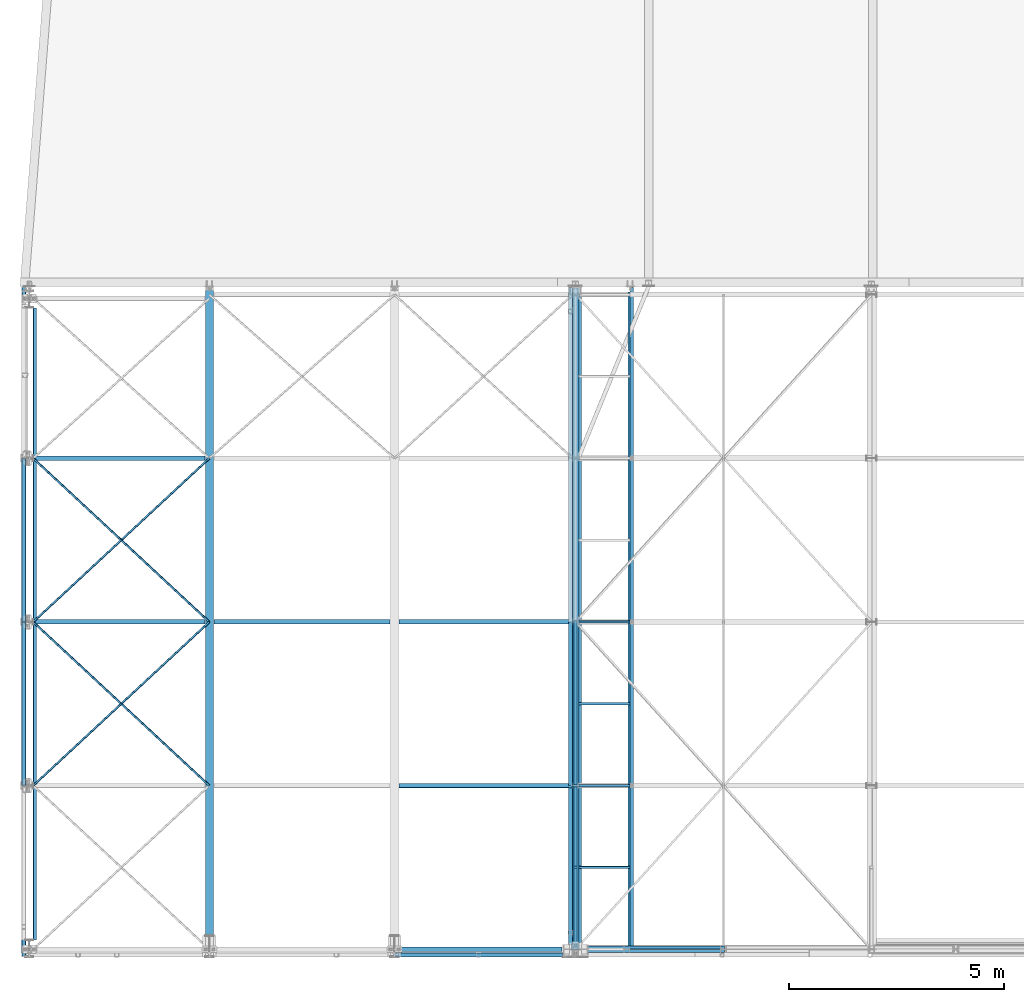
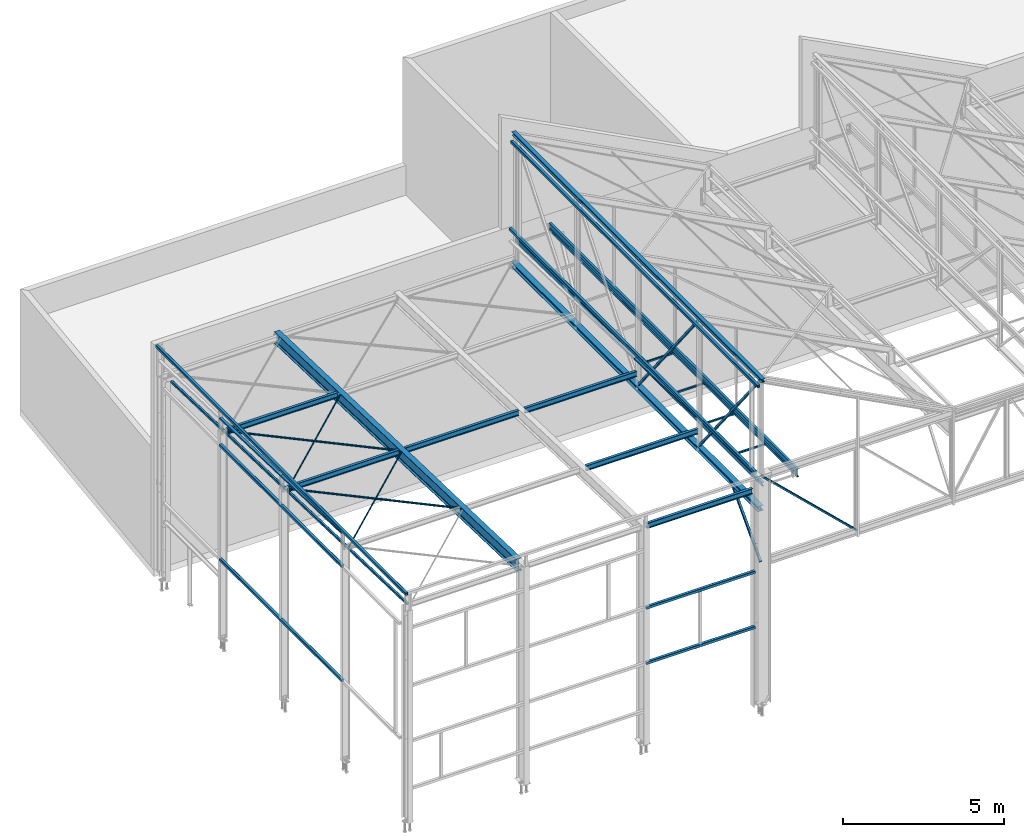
# One storey, part 25 of 123: 34 beams, 5 members, 39 elements without a shape of their own.
"""IFC2X3 building model written with IfcOpenShell, lengths in millimetres."""

import ifcopenshell
import ifcopenshell.guid

model = None  # the IFC model being written
_history = None  # IfcOwnerHistory: only IFC2X3 demands one
_inside = {}  # id of a spatial element -> (the spatial element, [elements in it])
_under = {}  # id of a project, library or spatial element -> (it, [spatial elements below it])
_declared = {}  # id of a project -> (the project, [libraries it declares])
_typed = {}  # id of a type object -> (the type object, [elements of that type])
_made_of = {}  # id of a material, layer set ... -> (it, [elements and type objects made of it])


def new_model(schema):
    """Start an empty IFC model of exactly this schema.

    Asked for "IFC4X3", IfcOpenShell would pick the latest addendum, in which some entities
    have other attributes; the version numbers below select the first issue.
    IFC2X3 requires an IfcOwnerHistory on every rooted entity: one is made here for all.
    """
    global model, _history
    if schema == "IFC4X3":
        model = ifcopenshell.file(schema_version=(4, 3, 0, 0))
    else:
        model = ifcopenshell.file(schema=schema)
    _inside.clear()
    _under.clear()
    _declared.clear()
    _typed.clear()
    _made_of.clear()
    _history = None
    if model.schema == "IFC2X3":
        org = make("IfcOrganization", Name="unknown")
        user = make(
            "IfcPersonAndOrganization",
            ThePerson=make("IfcPerson", FamilyName="unknown"),
            TheOrganization=org,
        )
        app = make(
            "IfcApplication",
            ApplicationDeveloper=org,
            Version="unknown",
            ApplicationFullName="unknown",
            ApplicationIdentifier="unknown",
        )
        _history = make(
            "IfcOwnerHistory",
            OwningUser=user,
            OwningApplication=app,
            ChangeAction="ADDED",
            CreationDate=0,
        )
    return model


def make(cls, **values):
    """One entity of the class cls with the attributes given. An attribute that is None is left unset."""
    return model.create_entity(
        cls, **{name: value for name, value in values.items() if value is not None}
    )


def rooted(cls, **values):
    """An entity with a GlobalId (a new one), such as an element, a storey or a relation."""
    return make(cls, GlobalId=ifcopenshell.guid.new(), OwnerHistory=_history, **values)


def si_unit(unit_type, name, prefix=None):
    """IfcSIUnit, for example si_unit("LENGTHUNIT", "METRE", prefix="MILLI")."""
    return make("IfcSIUnit", UnitType=unit_type, Prefix=prefix, Name=name)


def assignment(units):
    """IfcUnitAssignment: the units of a project."""
    return None if units is None else make("IfcUnitAssignment", Units=units)


def point(xyz):
    """IfcCartesianPoint."""
    return None if xyz is None else make("IfcCartesianPoint", Coordinates=xyz)


def direction(xyz):
    """IfcDirection."""
    return None if xyz is None else make("IfcDirection", DirectionRatios=xyz)


def frame(location, z_axis=None, x_axis=None):
    """IfcAxis2Placement3D, a coordinate frame: its origin and axes. An axis left out is left unset."""
    return make(
        "IfcAxis2Placement3D",
        Location=point(location),
        Axis=direction(z_axis),
        RefDirection=direction(x_axis),
    )


def frame_2d(location, x_axis=None):
    """IfcAxis2Placement2D, a coordinate frame in the plane: its origin and x axis."""
    return make(
        "IfcAxis2Placement2D", Location=point(location), RefDirection=direction(x_axis)
    )


def origin_with_axes():
    """The frame at (0, 0, 0) with the z axis (0, 0, 1) and the x axis (1, 0, 0) written out."""
    return frame((0.0, 0.0, 0.0), z_axis=(0.0, 0.0, 1.0), x_axis=(1.0, 0.0, 0.0))


def origin_2d_with_axis():
    """The frame at (0, 0) in the plane with the x axis (1, 0) written out."""
    return frame_2d((0.0, 0.0), x_axis=(1.0, 0.0))


def place(relative_to, where):
    """IfcLocalPlacement: puts the frame where relative to a parent placement (None: the world)."""
    return make(
        "IfcLocalPlacement", PlacementRelTo=relative_to, RelativePlacement=where
    )


def context(
    kind, dimensions, precision=None, world=None, true_north=None, identifier=None
):
    """IfcGeometricRepresentationContext, for example the 3D "Model" context."""
    return make(
        "IfcGeometricRepresentationContext",
        ContextIdentifier=identifier,
        ContextType=kind,
        CoordinateSpaceDimension=dimensions,
        Precision=precision,
        WorldCoordinateSystem=world,
        TrueNorth=true_north,
    )


def subcontext(parent, identifier, kind, view, scale=None):
    """IfcGeometricRepresentationSubContext, for example "Body" below "Model"."""
    return make(
        "IfcGeometricRepresentationSubContext",
        ContextIdentifier=identifier,
        ContextType=kind,
        ParentContext=parent,
        TargetScale=scale,
        TargetView=view,
    )


def project(units=None, contexts=None):
    """IfcProject with its units and contexts."""
    return rooted(
        "IfcProject",
        Name="project",
        RepresentationContexts=contexts,
        UnitsInContext=assignment(units),
    )


def spatial(cls, under=None, at=None, **own):
    """A site, building, storey or space (cls), placed at a placement, below another one or the project."""
    s = rooted(cls, ObjectPlacement=at, **own)
    if under is not None:
        _under.setdefault(under.id(), (under, []))[1].append(s)
    return s


def profile(cls, at=None, kind="AREA", **sizes):
    """A parametric profile (cls). Its sizes go by their IFC names, for example OverallWidth=200.0."""
    return make(cls, ProfileType=kind, Position=at, **sizes)


def hollow_rectangle(**sizes):
    """IfcRectangleHollowProfileDef."""
    return profile("IfcRectangleHollowProfileDef", **sizes)


def i_section(**sizes):
    """IfcIShapeProfileDef."""
    return profile("IfcIShapeProfileDef", **sizes)


def l_section(**sizes):
    """IfcLShapeProfileDef."""
    return profile("IfcLShapeProfileDef", **sizes)


def u_section(**sizes):
    """IfcUShapeProfileDef."""
    return profile("IfcUShapeProfileDef", **sizes)


def extrude(swept, where, along, depth):
    """IfcExtrudedAreaSolid: the profile swept, set in the frame where, extruded along a direction by depth."""
    return make(
        "IfcExtrudedAreaSolid",
        SweptArea=swept,
        Position=where,
        ExtrudedDirection=direction(along),
        Depth=depth,
    )


def clip(a, b, op="DIFFERENCE"):
    """IfcBooleanClippingResult: the solid a cut by the half space b."""
    return make(
        "IfcBooleanClippingResult", Operator=op, FirstOperand=a, SecondOperand=b
    )


def halfspace(plane, agree):
    """IfcHalfSpaceSolid: all space on one side of the plane z = 0 of the frame plane."""
    return make(
        "IfcHalfSpaceSolid",
        BaseSurface=make("IfcPlane", Position=plane),
        AgreementFlag=agree,
    )


def shape(context_of_items, identifier, shape_type, items):
    """IfcShapeRepresentation: the items that make up one representation, for example the "Body"."""
    return make(
        "IfcShapeRepresentation",
        ContextOfItems=context_of_items,
        RepresentationIdentifier=identifier,
        RepresentationType=shape_type,
        Items=items,
    )


def material(Name=None, Category=None):
    """IfcMaterial."""
    return make("IfcMaterial", Name=Name, Category=Category)


def made_of(thing, what):
    """Note that an element or type object is made of a material, layer set ...; save() writes the relation."""
    if what is not None:
        _made_of.setdefault(what.id(), (what, []))[1].append(thing)
    return thing


def type_object(cls, material=None, **own):
    """A type object (cls), such as IfcWallType, which elements share."""
    return made_of(rooted(cls, **own), material)


def element(
    cls,
    number,
    at=None,
    inside=None,
    cuts=None,
    type_object=None,
    material=None,
    context=None,
    identifier="Body",
    shape_type=None,
    held_by="IfcProductDefinitionShape",
    body=None,
    shapes=None,
    **own,
):
    """One element of the class cls, such as IfcWall. Its Tag is "e" and its number.

    at: its placement. inside: the storey or other place that contains it. cuts: it is an
    opening in that element (IfcRelVoidsElement). A single representation is given by context,
    identifier, shape_type and body (its items); several are given by shapes. held_by: the class
    of the entity that holds the representations. save() writes the other relations.
    """
    e = rooted(cls, Tag="e%d" % number, ObjectPlacement=at, **own)
    if body is not None:
        shapes = [shape(context, identifier, shape_type, body)]
    if shapes is not None:
        e.Representation = make(held_by, Representations=shapes)
    if inside is not None:
        _inside.setdefault(inside.id(), (inside, []))[1].append(e)
    if cuts is not None:
        rooted(
            "IfcRelVoidsElement", RelatingBuildingElement=cuts, RelatedOpeningElement=e
        )
    if type_object is not None:
        _typed.setdefault(type_object.id(), (type_object, []))[1].append(e)
    return made_of(e, material)


def aggregate(whole, parts):
    """IfcRelAggregates: a whole, such as a stair, and the parts it consists of."""
    return rooted("IfcRelAggregates", RelatingObject=whole, RelatedObjects=parts)


def save(model, path):
    """Write the relations noted so far, then the file.

    IfcRelAggregates (storeys below a building ...), IfcRelContainedInSpatialStructure (elements
    in a storey), IfcRelDefinesByType, IfcRelAssociatesMaterial and IfcRelDeclares: one each for
    every whole, place, type object, material and project.
    """
    for whole, parts in _under.values():
        aggregate(whole, parts)
    for where, things in _inside.values():
        rooted(
            "IfcRelContainedInSpatialStructure",
            RelatedElements=things,
            RelatingStructure=where,
        )
    for kind, things in _typed.values():
        rooted("IfcRelDefinesByType", RelatedObjects=things, RelatingType=kind)
    for what, things in _made_of.values():
        rooted("IfcRelAssociatesMaterial", RelatedObjects=things, RelatingMaterial=what)
    for by, libraries in _declared.values():
        rooted("IfcRelDeclares", RelatingContext=by, RelatedDefinitions=libraries)
    model.write(path)


model = new_model("IFC2X3")

# Units and contexts
model_context = context("Model", 3, precision=1e-05, world=origin_with_axes())
body_context = subcontext(model_context, "Body", "Model", "MODEL_VIEW")
ifc_project = project(units=[si_unit("LENGTHUNIT", "METRE", prefix="MILLI"), si_unit("AREAUNIT", "SQUARE_METRE"), si_unit("VOLUMEUNIT", "CUBIC_METRE"), si_unit("MASSUNIT", "GRAM", prefix="KILO"), si_unit("TIMEUNIT", "SECOND"), si_unit("PLANEANGLEUNIT", "RADIAN"), si_unit("SOLIDANGLEUNIT", "STERADIAN"), si_unit("THERMODYNAMICTEMPERATUREUNIT", "DEGREE_CELSIUS"), si_unit("LUMINOUSINTENSITYUNIT", "LUMEN")], contexts=[model_context])

# Site, building, storey
site_placement = place(None, origin_with_axes())
site = spatial("IfcSite", under=ifc_project, at=site_placement, Name="Undefined", CompositionType="ELEMENT")
building_placement = place(site_placement, origin_with_axes())
building = spatial("IfcBuilding", under=site, at=building_placement, Name="Undefined", CompositionType="ELEMENT")
storey_placement = place(building_placement, origin_with_axes())
storey = spatial("IfcBuildingStorey", under=building, at=storey_placement, Name="Undefined", CompositionType="ELEMENT", Elevation=0.0)

# Assembly, beam
assembly_1_placement = place(storey_placement, origin_with_axes())
assembly_1 = element("IfcElementAssembly", 1, at=assembly_1_placement, inside=storey, Name="Steel Assembly", AssemblyPlace="NOTDEFINED", PredefinedType="RIGID_FRAME")
ifc_material_1 = material(Name="STEEL/S235-E24")
beam_type_1 = type_object("IfcBeamType", Name="UPF-100*50*4", PredefinedType="NOTDEFINED")
beam_1_placement = place(assembly_1_placement, frame((12563.5000000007, 3800.0, 8410.85601504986), z_axis=(1.0, 0.0, 0.0), x_axis=(0.0, 0.999506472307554, -0.0314135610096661)))
beam_1 = element("IfcBeam", 2, at=beam_1_placement, type_object=beam_type_1, material=ifc_material_1, Name="LISSE CONTREBARDAGE", ObjectType="UPF-100*50*4", context=body_context, shape_type="SweptSolid", body=[
    extrude(u_section(Depth=100.0, FlangeWidth=50.0, WebThickness=4.0, FlangeThickness=4.0, at=origin_2d_with_axis()), frame((3801.87643069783, 2.63808171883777e-14, 0.0), z_axis=(-1.0, 0.0, 0.0), x_axis=(0.0, -1.0, 0.0)), (0.0, 0.0, 1.0), 3801.9),
])
aggregate(assembly_1, [beam_1])

assembly_2_placement = place(storey_placement, origin_with_axes())
assembly_2 = element("IfcElementAssembly", 3, at=assembly_2_placement, inside=storey, Name="Steel Assembly", AssemblyPlace="NOTDEFINED", PredefinedType="RIGID_FRAME")
beam_2_placement = place(assembly_2_placement, frame((-129.99999999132, 7600.0, 8291.42237510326), z_axis=(1.0, 0.0, 0.0), x_axis=(0.0, 0.999506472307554, -0.0314135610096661)))
beam_2 = element("IfcBeam", 4, at=beam_2_placement, type_object=beam_type_1, material=ifc_material_1, Name="LISSE CONTREBARDAGE", ObjectType="UPF-100*50*4", context=body_context, shape_type="SweptSolid", body=[
    extrude(u_section(Depth=100.0, FlangeWidth=50.0, WebThickness=4.0, FlangeThickness=4.0, at=origin_2d_with_axis()), frame((3801.87643069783, 2.63808171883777e-14, 0.0), z_axis=(-1.0, 0.0, 0.0), x_axis=(0.0, -1.0, 0.0)), (0.0, 0.0, 1.0), 3801.9),
])
aggregate(assembly_2, [beam_2])

assembly_3_placement = place(storey_placement, origin_with_axes())
assembly_3 = element("IfcElementAssembly", 5, at=assembly_3_placement, inside=storey, Name="Steel Assembly", AssemblyPlace="NOTDEFINED", PredefinedType="RIGID_FRAME")
beam_3_placement = place(assembly_3_placement, frame((-129.999999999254, 3799.99999997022, 8410.85601504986), z_axis=(1.0, 0.0, 0.0), x_axis=(0.0, 0.999506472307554, -0.0314135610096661)))
beam_3 = element("IfcBeam", 6, at=beam_3_placement, type_object=beam_type_1, material=ifc_material_1, Name="LISSE CONTREBARDAGE", ObjectType="UPF-100*50*4", context=body_context, shape_type="SweptSolid", body=[
    extrude(u_section(Depth=100.0, FlangeWidth=50.0, WebThickness=4.0, FlangeThickness=4.0, at=origin_2d_with_axis()), frame((3801.87643069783, 2.63808171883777e-14, 0.0), z_axis=(-1.0, 0.0, 0.0), x_axis=(0.0, -1.0, 0.0)), (0.0, 0.0, 1.0), 3801.9),
])
aggregate(assembly_3, [beam_3])

assembly_4_placement = place(storey_placement, origin_with_axes())
assembly_4 = element("IfcElementAssembly", 7, at=assembly_4_placement, inside=storey, Name="Steel Assembly", AssemblyPlace="NOTDEFINED", PredefinedType="RIGID_FRAME")
ifc_material_2 = material(Name="STEEL/S275-E28")
beam_type_2 = type_object("IfcBeamType", Name="IPE450", PredefinedType="NOTDEFINED")
beam_4_placement = place(assembly_4_placement, frame((4180.00000000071, -7.06742078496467, 7825.11102391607), z_axis=(0.0, -0.0314107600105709, -0.999506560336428), x_axis=(0.0, 0.999506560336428, -0.0314107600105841)))
beam_4 = element("IfcBeam", 8, at=beam_4_placement, type_object=beam_type_2, material=ifc_material_2, Name="TRAVERSE", ObjectType="IPE450", context=body_context, shape_type="Clipping", body=[
    clip(clip(extrude(i_section(OverallWidth=190.0, OverallDepth=450.0, WebThickness=9.399999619, FlangeThickness=14.60000038, FilletRadius=21.0, at=origin_2d_with_axis()), frame((15397.5977849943, 0.0, 0.0), z_axis=(-1.0, 0.0, 0.0), x_axis=(0.0, -1.0, 0.0)), (0.0, 0.0, 1.0), 15397.6), halfspace(frame((15367.5829744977, -95.0, -224.999999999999), z_axis=(0.999506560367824, 0.0, -0.0314107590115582), x_axis=(0.0314107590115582, 0.0, 0.999506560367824)), False)), halfspace(frame((320.157978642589, 95.0, -224.999999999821), z_axis=(-0.999506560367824, 0.0, 0.0314107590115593), x_axis=(0.0314107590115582, 0.0, 0.999506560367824)), False)),
])
aggregate(assembly_4, [beam_4])

# Assembly, member
assembly_5_placement = place(storey_placement, origin_with_axes())
assembly_5 = element("IfcElementAssembly", 9, at=assembly_5_placement, inside=storey, Name="Steel Assembly", AssemblyPlace="NOTDEFINED", PredefinedType="RIGID_FRAME")
member_type_1 = type_object("IfcMemberType", Name="L70*7", PredefinedType="NOTDEFINED")
member_1_placement = place(assembly_5_placement, frame((12680.0000000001, 39.9999999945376, 8409.99999999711), z_axis=(-0.690659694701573, 0.0, -0.723179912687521), x_axis=(0.723179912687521, 0.0, -0.690659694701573)))
member_1 = element("IfcMember", 10, at=member_1_placement, type_object=member_type_1, material=ifc_material_1, Name="DIAGONALE", ObjectType="L70*7", context=body_context, shape_type="SweptSolid", body=[
    extrude(l_section(Depth=70.0, Width=70.0, Thickness=7.0, FilletRadius=9.0, EdgeRadius=4.5, at=origin_2d_with_axis()), frame((4749.482977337, 0.0, 0.0), z_axis=(-1.0, 0.0, 0.0), x_axis=(0.0, -1.0, 0.0)), (0.0, 0.0, 1.0), 4749.5),
])
aggregate(assembly_5, [member_1])

assembly_6_placement = place(storey_placement, origin_with_axes())
assembly_6 = element("IfcElementAssembly", 11, at=assembly_6_placement, inside=storey, Name="Steel Assembly", AssemblyPlace="NOTDEFINED", PredefinedType="RIGID_FRAME")
member_2_placement = place(assembly_6_placement, frame((16114.7306857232, -40.0000000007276, 5129.72353777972), z_axis=(-0.690659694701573, 0.0, -0.723179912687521), x_axis=(-0.723179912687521, 0.0, 0.690659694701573)))
member_2 = element("IfcMember", 12, at=member_2_placement, type_object=member_type_1, material=ifc_material_1, Name="DIAGONALE", ObjectType="L70*7", context=body_context, shape_type="SweptSolid", body=[
    extrude(l_section(Depth=70.0, Width=70.0, Thickness=7.0, FilletRadius=9.0, EdgeRadius=4.5, at=origin_2d_with_axis()), frame((4749.482977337, 0.0, 0.0), z_axis=(-1.0, 0.0, 0.0), x_axis=(0.0, -1.0, 0.0)), (0.0, 0.0, 1.0), 4749.5),
])
aggregate(assembly_6, [member_2])

# Assembly, beam
assembly_7_placement = place(storey_placement, origin_with_axes())
assembly_7 = element("IfcElementAssembly", 13, at=assembly_7_placement, inside=storey, Name="Steel Assembly", AssemblyPlace="NOTDEFINED", PredefinedType="RIGID_FRAME")
beam_type_3 = type_object("IfcBeamType", Name="TUBE-C-60*60*3", PredefinedType="NOTDEFINED")
beam_5_placement = place(assembly_7_placement, frame((12751.5083416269, 5700.0, 8015.0), z_axis=(0.0, -1.0, 0.0), x_axis=(1.0, 0.0, 0.0)))
beam_5 = element("IfcBeam", 14, at=beam_5_placement, type_object=beam_type_3, material=ifc_material_1, Name="SOLIVE", ObjectType="TUBE-C-60*60*3", context=body_context, shape_type="SweptSolid", body=[
    extrude(hollow_rectangle(XDim=60.0, YDim=60.0, WallThickness=3.0, InnerFilletRadius=3.0, OuterFilletRadius=6.0, at=origin_2d_with_axis()), frame((1194.99154388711, 0.0, 0.0), z_axis=(-1.0, 0.0, 0.0), x_axis=(0.0, -1.0, 0.0)), (0.0, 0.0, 1.0), 1195.0),
])
aggregate(assembly_7, [beam_5])

assembly_8_placement = place(storey_placement, origin_with_axes())
assembly_8 = element("IfcElementAssembly", 15, at=assembly_8_placement, inside=storey, Name="Steel Assembly", AssemblyPlace="NOTDEFINED", PredefinedType="RIGID_FRAME")
beam_6_placement = place(assembly_8_placement, frame((12751.5083416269, 1900.0, 8015.0), z_axis=(0.0, -1.0, 0.0), x_axis=(1.0, 0.0, 0.0)))
beam_6 = element("IfcBeam", 16, at=beam_6_placement, type_object=beam_type_3, material=ifc_material_1, Name="SOLIVE", ObjectType="TUBE-C-60*60*3", context=body_context, shape_type="SweptSolid", body=[
    extrude(hollow_rectangle(XDim=60.0, YDim=60.0, WallThickness=3.0, InnerFilletRadius=3.0, OuterFilletRadius=6.0, at=origin_2d_with_axis()), frame((1194.99154388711, 0.0, 0.0), z_axis=(-1.0, 0.0, 0.0), x_axis=(0.0, -1.0, 0.0)), (0.0, 0.0, 1.0), 1195.0),
])
aggregate(assembly_8, [beam_6])

assembly_9_placement = place(storey_placement, origin_with_axes())
assembly_9 = element("IfcElementAssembly", 17, at=assembly_9_placement, inside=storey, Name="Steel Assembly", AssemblyPlace="NOTDEFINED", PredefinedType="RIGID_FRAME")
beam_7_placement = place(assembly_9_placement, frame((12751.5083416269, 7600.0, 8015.0), z_axis=(0.0, -1.0, 0.0), x_axis=(1.0, 0.0, 0.0)))
beam_7 = element("IfcBeam", 18, at=beam_7_placement, type_object=beam_type_3, material=ifc_material_1, Name="SOLIVE", ObjectType="TUBE-C-60*60*3", context=body_context, shape_type="SweptSolid", body=[
    extrude(hollow_rectangle(XDim=60.0, YDim=60.0, WallThickness=3.0, InnerFilletRadius=3.0, OuterFilletRadius=6.0, at=origin_2d_with_axis()), frame((1194.99154388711, 0.0, 0.0), z_axis=(-1.0, 0.0, 0.0), x_axis=(0.0, -1.0, 0.0)), (0.0, 0.0, 1.0), 1195.0),
])
aggregate(assembly_9, [beam_7])

assembly_10_placement = place(storey_placement, origin_with_axes())
assembly_10 = element("IfcElementAssembly", 19, at=assembly_10_placement, inside=storey, Name="Steel Assembly", AssemblyPlace="NOTDEFINED", PredefinedType="RIGID_FRAME")
beam_8_placement = place(assembly_10_placement, frame((12751.5083416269, 3800.0, 8015.0), z_axis=(0.0, -1.0, 0.0), x_axis=(1.0, 0.0, 0.0)))
beam_8 = element("IfcBeam", 20, at=beam_8_placement, type_object=beam_type_3, material=ifc_material_1, Name="SOLIVE", ObjectType="TUBE-C-60*60*3", context=body_context, shape_type="SweptSolid", body=[
    extrude(hollow_rectangle(XDim=60.0, YDim=60.0, WallThickness=3.0, InnerFilletRadius=3.0, OuterFilletRadius=6.0, at=origin_2d_with_axis()), frame((1194.99154388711, 0.0, 0.0), z_axis=(-1.0, 0.0, 0.0), x_axis=(0.0, -1.0, 0.0)), (0.0, 0.0, 1.0), 1195.0),
])
aggregate(assembly_10, [beam_8])

assembly_11_placement = place(storey_placement, origin_with_axes())
assembly_11 = element("IfcElementAssembly", 21, at=assembly_11_placement, inside=storey, Name="Steel Assembly", AssemblyPlace="NOTDEFINED", PredefinedType="RIGID_FRAME")
beam_type_4 = type_object("IfcBeamType", Name="UPF-300*82.5*6", PredefinedType="NOTDEFINED")
beam_9_placement = place(assembly_11_placement, frame((13987.7498855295, 15360.0000093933, 8090.0), z_axis=(0.0, 0.0, -1.0), x_axis=(0.0, -1.0, 0.0)))
beam_9 = element("IfcBeam", 22, at=beam_9_placement, type_object=beam_type_4, material=ifc_material_1, Name="LONGERON", ObjectType="UPF-300*82.5*6", context=body_context, shape_type="SweptSolid", body=[
    extrude(u_section(Depth=300.0, FlangeWidth=82.5, WebThickness=6.0, FlangeThickness=6.0, at=origin_2d_with_axis()), frame((15430.0000255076, 0.0, 0.0), z_axis=(-1.0, 0.0, 0.0), x_axis=(0.0, -1.0, 0.0)), (0.0, 0.0, 1.0), 15430.0),
])
aggregate(assembly_11, [beam_9])

assembly_12_placement = place(storey_placement, origin_with_axes())
assembly_12 = element("IfcElementAssembly", 23, at=assembly_12_placement, inside=storey, Name="Steel Assembly", AssemblyPlace="NOTDEFINED", PredefinedType="RIGID_FRAME")
beam_type_5 = type_object("IfcBeamType", Name="TUBE-C-100*100*4", PredefinedType="NOTDEFINED")
beam_10_placement = place(assembly_12_placement, frame((12563.5000013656, -70.0000009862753, 11869.999999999), z_axis=(0.0, 0.0, -1.0), x_axis=(0.0, 1.0, 0.0)))
beam_10 = element("IfcBeam", 24, at=beam_10_placement, type_object=beam_type_5, material=ifc_material_1, Name="LISSE ACROTERE", ObjectType="TUBE-C-100*100*4", context=body_context, shape_type="SweptSolid", body=[
    extrude(hollow_rectangle(XDim=100.0, YDim=100.0, WallThickness=4.0, InnerFilletRadius=4.0, OuterFilletRadius=8.0, at=origin_2d_with_axis()), frame((15340.0000000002, 0.0, 0.0), z_axis=(-1.0, 0.0, 0.0), x_axis=(0.0, -1.0, 0.0)), (0.0, 0.0, 1.0), 15340.0),
])
aggregate(assembly_12, [beam_10])

assembly_13_placement = place(storey_placement, origin_with_axes())
assembly_13 = element("IfcElementAssembly", 25, at=assembly_13_placement, inside=storey, Name="Steel Assembly", AssemblyPlace="NOTDEFINED", PredefinedType="RIGID_FRAME")
beam_11_placement = place(assembly_13_placement, frame((8480.00000000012, -130.000008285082, 4949.99999999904), z_axis=(0.0, 0.0, 1.0), x_axis=(1.0, 0.0, 0.0)))
beam_11 = element("IfcBeam", 26, at=beam_11_placement, type_object=beam_type_5, material=ifc_material_1, Name="LISSE CHASSIS", ObjectType="TUBE-C-100*100*4", context=body_context, shape_type="SweptSolid", body=[
    extrude(hollow_rectangle(XDim=100.0, YDim=100.0, WallThickness=4.0, InnerFilletRadius=4.0, OuterFilletRadius=8.0, at=origin_2d_with_axis()), frame((3900.00000005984, 0.0, 0.0), z_axis=(-1.0, 0.0, 0.0), x_axis=(0.0, -1.0, 0.0)), (0.0, 0.0, 1.0), 3900.0),
])
aggregate(assembly_13, [beam_11])

assembly_14_placement = place(storey_placement, origin_with_axes())
assembly_14 = element("IfcElementAssembly", 27, at=assembly_14_placement, inside=storey, Name="Steel Assembly", AssemblyPlace="NOTDEFINED", PredefinedType="RIGID_FRAME")
beam_12_placement = place(assembly_14_placement, frame((8480.0, -130.000008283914, 2850.0), z_axis=(0.0, 0.0, -1.0), x_axis=(1.0, 0.0, 0.0)))
beam_12 = element("IfcBeam", 28, at=beam_12_placement, type_object=beam_type_5, material=ifc_material_1, Name="LISSE CHASSIS", ObjectType="TUBE-C-100*100*4", context=body_context, shape_type="SweptSolid", body=[
    extrude(hollow_rectangle(XDim=100.0, YDim=100.0, WallThickness=4.0, InnerFilletRadius=4.0, OuterFilletRadius=8.0, at=origin_2d_with_axis()), frame((3900.00000005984, 0.0, 0.0), z_axis=(-1.0, 0.0, 0.0), x_axis=(0.0, -1.0, 0.0)), (0.0, 0.0, 1.0), 3900.0),
])
aggregate(assembly_14, [beam_12])

assembly_15_placement = place(storey_placement, origin_with_axes())
assembly_15 = element("IfcElementAssembly", 29, at=assembly_15_placement, inside=storey, Name="Steel Assembly", AssemblyPlace="NOTDEFINED", PredefinedType="RIGID_FRAME")
beam_13_placement = place(assembly_15_placement, frame((-129.999997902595, 11399.9999991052, 7150.00000059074), z_axis=(0.0, 0.0, -1.0), x_axis=(0.0, -1.0, 0.0)))
beam_13 = element("IfcBeam", 30, at=beam_13_placement, type_object=beam_type_5, material=ifc_material_1, Name="LISSE CHASSIS", ObjectType="TUBE-C-100*100*4", context=body_context, shape_type="SweptSolid", body=[
    extrude(hollow_rectangle(XDim=100.0, YDim=100.0, WallThickness=4.0, InnerFilletRadius=4.0, OuterFilletRadius=8.0, at=origin_2d_with_axis()), frame((3799.99999999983, 0.0, 0.0), z_axis=(-1.0, 0.0, 0.0), x_axis=(0.0, -1.0, 0.0)), (0.0, 0.0, 1.0), 3800.0),
])
aggregate(assembly_15, [beam_13])

assembly_16_placement = place(storey_placement, origin_with_axes())
assembly_16 = element("IfcElementAssembly", 31, at=assembly_16_placement, inside=storey, Name="Steel Assembly", AssemblyPlace="NOTDEFINED", PredefinedType="RIGID_FRAME")
beam_14_placement = place(assembly_16_placement, frame((-129.999999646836, 7599.99999910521, 7150.00000925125), z_axis=(0.0, 0.0, -1.0), x_axis=(0.0, -1.0, 0.0)))
beam_14 = element("IfcBeam", 32, at=beam_14_placement, type_object=beam_type_5, material=ifc_material_1, Name="LISSE CHASSIS", ObjectType="TUBE-C-100*100*4", context=body_context, shape_type="SweptSolid", body=[
    extrude(hollow_rectangle(XDim=100.0, YDim=100.0, WallThickness=4.0, InnerFilletRadius=4.0, OuterFilletRadius=8.0, at=origin_2d_with_axis()), frame((3799.99999999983, 0.0, 0.0), z_axis=(-1.0, 0.0, 0.0), x_axis=(0.0, -1.0, 0.0)), (0.0, 0.0, 1.0), 3800.0),
])
aggregate(assembly_16, [beam_14])

assembly_17_placement = place(storey_placement, origin_with_axes())
assembly_17 = element("IfcElementAssembly", 33, at=assembly_17_placement, inside=storey, Name="Steel Assembly", AssemblyPlace="NOTDEFINED", PredefinedType="RIGID_FRAME")
beam_15_placement = place(assembly_17_placement, frame((-129.999999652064, 7599.99999900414, 2810.00000011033), z_axis=(0.0, 0.0, 1.0), x_axis=(0.0, -1.0, 0.0)))
beam_15 = element("IfcBeam", 34, at=beam_15_placement, type_object=beam_type_5, material=ifc_material_1, Name="LISSE CHASSIS", ObjectType="TUBE-C-100*100*4", context=body_context, shape_type="SweptSolid", body=[
    extrude(hollow_rectangle(XDim=100.0, YDim=100.0, WallThickness=4.0, InnerFilletRadius=4.0, OuterFilletRadius=8.0, at=origin_2d_with_axis()), frame((3799.99999999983, 0.0, 0.0), z_axis=(-1.0, 0.0, 0.0), x_axis=(0.0, -1.0, 0.0)), (0.0, 0.0, 1.0), 3800.0),
])
aggregate(assembly_17, [beam_15])

assembly_18_placement = place(storey_placement, origin_with_axes())
assembly_18 = element("IfcElementAssembly", 35, at=assembly_18_placement, inside=storey, Name="Steel Assembly", AssemblyPlace="NOTDEFINED", PredefinedType="RIGID_FRAME")
beam_16_placement = place(assembly_18_placement, frame((-129.999997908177, 11399.9999990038, 2810.00000033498), z_axis=(0.0, 0.0, 1.0), x_axis=(0.0, -1.0, 0.0)))
beam_16 = element("IfcBeam", 36, at=beam_16_placement, type_object=beam_type_5, material=ifc_material_1, Name="LISSE CHASSIS", ObjectType="TUBE-C-100*100*4", context=body_context, shape_type="SweptSolid", body=[
    extrude(hollow_rectangle(XDim=100.0, YDim=100.0, WallThickness=4.0, InnerFilletRadius=4.0, OuterFilletRadius=8.0, at=origin_2d_with_axis()), frame((3799.99999999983, 0.0, 0.0), z_axis=(-1.0, 0.0, 0.0), x_axis=(0.0, -1.0, 0.0)), (0.0, 0.0, 1.0), 3800.0),
])
aggregate(assembly_18, [beam_16])

assembly_19_placement = place(storey_placement, origin_with_axes())
assembly_19 = element("IfcElementAssembly", 37, at=assembly_19_placement, inside=storey, Name="Steel Assembly", AssemblyPlace="NOTDEFINED", PredefinedType="RIGID_FRAME")
beam_17_placement = place(assembly_19_placement, frame((12563.5000000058, 114.999999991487, 8500.00000000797), z_axis=(0.0, 0.0, 1.0), x_axis=(0.0, 1.0, 0.0)))
beam_17 = element("IfcBeam", 38, at=beam_17_placement, type_object=beam_type_5, material=ifc_material_1, Name="LISSE ACROTERE", ObjectType="TUBE-C-100*100*4", context=body_context, shape_type="SweptSolid", body=[
    extrude(hollow_rectangle(XDim=100.0, YDim=100.0, WallThickness=4.0, InnerFilletRadius=4.0, OuterFilletRadius=8.0, at=origin_2d_with_axis()), frame((15244.9999999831, 0.0, 0.0), z_axis=(-1.0, 0.0, 0.0), x_axis=(0.0, -1.0, 0.0)), (0.0, 0.0, 1.0), 15245.0),
])
aggregate(assembly_19, [beam_17])

assembly_20_placement = place(storey_placement, origin_with_axes())
assembly_20 = element("IfcElementAssembly", 39, at=assembly_20_placement, inside=storey, Name="Steel Assembly", AssemblyPlace="NOTDEFINED", PredefinedType="RIGID_FRAME")
beam_18_placement = place(assembly_20_placement, frame((-129.999999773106, 15359.9999999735, 8500.00000002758), z_axis=(0.0, 0.0, 1.0), x_axis=(0.0, -1.0, 0.0)))
beam_18 = element("IfcBeam", 40, at=beam_18_placement, type_object=beam_type_5, material=ifc_material_1, Name="LISSE ACROTERE", ObjectType="TUBE-C-100*100*4", context=body_context, shape_type="SweptSolid", body=[
    extrude(hollow_rectangle(XDim=100.0, YDim=100.0, WallThickness=4.0, InnerFilletRadius=4.0, OuterFilletRadius=8.0, at=origin_2d_with_axis()), frame((15540.0, 0.0, 0.0), z_axis=(-1.0, 0.0, 0.0), x_axis=(0.0, -1.0, 0.0)), (0.0, 0.0, 1.0), 15540.0),
])
aggregate(assembly_20, [beam_18])

# Assembly, member
assembly_21_placement = place(storey_placement, origin_with_axes())
assembly_21 = element("IfcElementAssembly", 41, at=assembly_21_placement, inside=storey, Name="Steel Assembly", AssemblyPlace="NOTDEFINED", PredefinedType="RIGID_FRAME")
member_type_2 = type_object("IfcMemberType", Name="TUBE-C-80*80*4", PredefinedType="NOTDEFINED")
member_3_placement = place(assembly_21_placement, frame((12680.0, 1900.00000000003, 7155.00000000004), z_axis=(1.0, 0.0, 0.0), x_axis=(0.0, -0.684240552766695, -0.729256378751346)))
member_3 = element("IfcMember", 42, at=member_3_placement, type_object=member_type_2, material=ifc_material_1, Name="BUTON", ObjectType="TUBE-C-80*80*4", context=body_context, shape_type="SweptSolid", body=[
    extrude(hollow_rectangle(XDim=80.0, YDim=80.0, WallThickness=4.0, InnerFilletRadius=4.0, OuterFilletRadius=8.0, at=origin_2d_with_axis()), frame((2776.80121722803, 0.0, 0.0), z_axis=(-1.0, 0.0, 0.0), x_axis=(0.0, -1.0, 0.0)), (0.0, 0.0, 1.0), 2776.8),
])
aggregate(assembly_21, [member_3])

assembly_22_placement = place(storey_placement, origin_with_axes())
assembly_22 = element("IfcElementAssembly", 43, at=assembly_22_placement, inside=storey, Name="Steel Assembly", AssemblyPlace="NOTDEFINED", PredefinedType="RIGID_FRAME")
member_4_placement = place(assembly_22_placement, frame((12680.0000000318, 3800.00552228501, 12037.0), z_axis=(-1.0, 0.0, 0.0), x_axis=(0.0, 0.621737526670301, -0.783225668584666)))
member_4 = element("IfcMember", 44, at=member_4_placement, type_object=member_type_2, material=ifc_material_1, Name="DIAGONALE", ObjectType="TUBE-C-80*80*4", context=body_context, shape_type="SweptSolid", body=[
    extrude(hollow_rectangle(XDim=80.0, YDim=80.0, WallThickness=4.0, InnerFilletRadius=4.0, OuterFilletRadius=8.0, at=origin_2d_with_axis()), frame((6111.9038768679, 0.0, 0.0), z_axis=(-1.0, 0.0, 0.0), x_axis=(0.0, -1.0, 0.0)), (0.0, 0.0, 1.0), 6111.9),
])
aggregate(assembly_22, [member_4])

assembly_23_placement = place(storey_placement, origin_with_axes())
assembly_23 = element("IfcElementAssembly", 45, at=assembly_23_placement, inside=storey, Name="Steel Assembly", AssemblyPlace="NOTDEFINED", PredefinedType="RIGID_FRAME")
member_5_placement = place(assembly_23_placement, frame((12680.0000000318, 0.00552228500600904, 12037.0), z_axis=(-1.0, 0.0, 0.0), x_axis=(0.0, 0.621737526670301, -0.783225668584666)))
member_5 = element("IfcMember", 46, at=member_5_placement, type_object=member_type_2, material=ifc_material_1, Name="DIAGONALE", ObjectType="TUBE-C-80*80*4", context=body_context, shape_type="SweptSolid", body=[
    extrude(hollow_rectangle(XDim=80.0, YDim=80.0, WallThickness=4.0, InnerFilletRadius=4.0, OuterFilletRadius=8.0, at=origin_2d_with_axis()), frame((6111.9038768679, 0.0, 0.0), z_axis=(-1.0, 0.0, 0.0), x_axis=(0.0, -1.0, 0.0)), (0.0, 0.0, 1.0), 6111.9),
])
aggregate(assembly_23, [member_5])

# Assembly, beam
assembly_24_placement = place(storey_placement, origin_with_axes())
assembly_24 = element("IfcElementAssembly", 47, at=assembly_24_placement, inside=storey, Name="Steel Assembly", AssemblyPlace="NOTDEFINED", PredefinedType="RIGID_FRAME")
beam_type_6 = type_object("IfcBeamType", Name="UPF-150*70*5", PredefinedType="NOTDEFINED")
beam_19_placement = place(assembly_24_placement, frame((12781.5083416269, 20.0000010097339, 8025.0), z_axis=(0.0, 0.0, 1.0), x_axis=(0.0, 1.0, 0.0)))
beam_19 = element("IfcBeam", 48, at=beam_19_placement, type_object=beam_type_6, material=ifc_material_1, Name="LONGERON", ObjectType="UPF-150*70*5", context=body_context, shape_type="SweptSolid", body=[
    extrude(u_section(Depth=150.0, FlangeWidth=70.0, WebThickness=5.0, FlangeThickness=5.0, at=origin_2d_with_axis()), frame((15340.0000000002, 0.0, 0.0), z_axis=(-1.0, 0.0, 0.0), x_axis=(0.0, -1.0, 0.0)), (0.0, 0.0, 1.0), 15340.0),
])
aggregate(assembly_24, [beam_19])

assembly_25_placement = place(storey_placement, origin_with_axes())
assembly_25 = element("IfcElementAssembly", 49, at=assembly_25_placement, inside=storey, Name="Steel Assembly", AssemblyPlace="NOTDEFINED", PredefinedType="RIGID_FRAME")
beam_type_7 = type_object("IfcBeamType", Name="L50*5", PredefinedType="NOTDEFINED")
beam_20_placement = place(assembly_25_placement, frame((13921.4998855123, 15260.0000093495, 8075.0), z_axis=(-1.0, 0.0, 0.0), x_axis=(0.0, -1.0, 0.0)))
beam_20 = element("IfcBeam", 50, at=beam_20_placement, type_object=beam_type_7, material=ifc_material_1, Name="SUPPORT", ObjectType="L50*5", context=body_context, shape_type="SweptSolid", body=[
    extrude(l_section(Depth=50.0, Width=50.0, Thickness=5.0, FilletRadius=7.0, EdgeRadius=3.5, at=origin_2d_with_axis()), frame((15180.0000000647, 0.0, 0.0), z_axis=(-1.0, 0.0, 0.0), x_axis=(0.0, -1.0, 0.0)), (0.0, 0.0, 1.0), 15180.0),
])
aggregate(assembly_25, [beam_20])

assembly_26_placement = place(storey_placement, origin_with_axes())
assembly_26 = element("IfcElementAssembly", 51, at=assembly_26_placement, inside=storey, Name="Steel Assembly", AssemblyPlace="NOTDEFINED", PredefinedType="RIGID_FRAME")
beam_21_placement = place(assembly_26_placement, frame((4180.00002805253, 7599.9990297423, 7711.11214624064), z_axis=(-0.680837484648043, -0.732073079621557, 0.0230070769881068), x_axis=(-0.732434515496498, 0.680501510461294, -0.0213863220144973)))
beam_21 = element("IfcBeam", 52, at=beam_21_placement, type_object=beam_type_7, material=ifc_material_1, Name="STABILITE CVT", ObjectType="L50*5", context=body_context, shape_type="SweptSolid", body=[
    extrude(l_section(Depth=50.0, Width=50.0, Thickness=5.0, FilletRadius=7.0, EdgeRadius=3.5, at=origin_2d_with_axis()), frame((5584.11699843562, -9.09494701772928e-13, -3.54171524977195e-12), z_axis=(-1.0, 0.0, 0.0), x_axis=(0.0, -1.0, 0.0)), (0.0, 0.0, 1.0), 5584.1),
])
aggregate(assembly_26, [beam_21])

assembly_27_placement = place(storey_placement, origin_with_axes())
assembly_27 = element("IfcElementAssembly", 53, at=assembly_27_placement, inside=storey, Name="Steel Assembly", AssemblyPlace="NOTDEFINED", PredefinedType="RIGID_FRAME")
beam_22_placement = place(assembly_27_placement, frame((90.0000000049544, 7599.99902927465, 7711.11214524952), z_axis=(-0.680837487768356, 0.732073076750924, -0.0230070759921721), x_axis=(0.73243451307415, 0.680501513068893, -0.0213863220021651)))
beam_22 = element("IfcBeam", 54, at=beam_22_placement, type_object=beam_type_7, material=ifc_material_1, Name="STABILITE CVT", ObjectType="L50*5", context=body_context, shape_type="SweptSolid", body=[
    extrude(l_section(Depth=50.0, Width=50.0, Thickness=5.0, FilletRadius=7.0, EdgeRadius=3.5, at=origin_2d_with_axis()), frame((5584.11699843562, -9.09494701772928e-13, -3.54171524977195e-12), z_axis=(-1.0, 0.0, 0.0), x_axis=(0.0, -1.0, 0.0)), (0.0, 0.0, 1.0), 5584.1),
])
aggregate(assembly_27, [beam_22])

assembly_28_placement = place(storey_placement, origin_with_axes())
assembly_28 = element("IfcElementAssembly", 55, at=assembly_28_placement, inside=storey, Name="Steel Assembly", AssemblyPlace="NOTDEFINED", PredefinedType="RIGID_FRAME")
beam_23_placement = place(assembly_28_placement, frame((4180.00002809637, 3800.00898270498, 7830.52586922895), z_axis=(-0.680836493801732, -0.73207405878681, 0.0230052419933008), x_axis=(-0.732435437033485, 0.680500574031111, -0.0213845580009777)))
beam_23 = element("IfcBeam", 56, at=beam_23_placement, type_object=beam_type_7, material=ifc_material_1, Name="STABILITE CVT", ObjectType="L50*5", context=body_context, shape_type="SweptSolid", body=[
    extrude(l_section(Depth=50.0, Width=50.0, Thickness=5.0, FilletRadius=7.0, EdgeRadius=3.5, at=origin_2d_with_axis()), frame((5584.10997519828, -1.93737733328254e-14, -6.66717104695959e-13), z_axis=(-1.0, 0.0, 0.0), x_axis=(0.0, -1.0, 0.0)), (0.0, 0.0, 1.0), 5584.1),
])
aggregate(assembly_28, [beam_23])

assembly_29_placement = place(storey_placement, origin_with_axes())
assembly_29 = element("IfcElementAssembly", 57, at=assembly_29_placement, inside=storey, Name="Steel Assembly", AssemblyPlace="NOTDEFINED", PredefinedType="RIGID_FRAME")
beam_24_placement = place(assembly_29_placement, frame((89.9999993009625, 3800.00898034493, 7830.52586826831), z_axis=(-0.680836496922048, 0.732074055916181, -0.0230052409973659), x_axis=(0.732435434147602, 0.680500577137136, -0.0213845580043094)))
beam_24 = element("IfcBeam", 58, at=beam_24_placement, type_object=beam_type_7, material=ifc_material_1, Name="STABILITE CVT", ObjectType="L50*5", context=body_context, shape_type="SweptSolid", body=[
    extrude(l_section(Depth=50.0, Width=50.0, Thickness=5.0, FilletRadius=7.0, EdgeRadius=3.5, at=origin_2d_with_axis()), frame((5584.10997519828, -1.93737733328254e-14, -6.66717104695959e-13), z_axis=(-1.0, 0.0, 0.0), x_axis=(0.0, -1.0, 0.0)), (0.0, 0.0, 1.0), 5584.1),
])
aggregate(assembly_29, [beam_24])

assembly_30_placement = place(storey_placement, origin_with_axes())
assembly_30 = element("IfcElementAssembly", 59, at=assembly_30_placement, inside=storey, Name="Steel Assembly", AssemblyPlace="NOTDEFINED", PredefinedType="RIGID_FRAME")
beam_type_8 = type_object("IfcBeamType", Name="TUBE-C-80*80*4", PredefinedType="NOTDEFINED")
beam_25_placement = place(assembly_30_placement, frame((130.000000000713, 7598.74356920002, 7571.08129582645), z_axis=(0.0, -0.0314107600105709, -0.999506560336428), x_axis=(0.0, 0.999506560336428, -0.0314107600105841)))
beam_25 = element("IfcBeam", 60, at=beam_25_placement, type_object=beam_type_8, material=ifc_material_1, Name="RAMASSE PANNE", ObjectType="TUBE-C-80*80*4", context=body_context, shape_type="Clipping", body=[
    clip(clip(extrude(hollow_rectangle(XDim=80.0, YDim=80.0, WallThickness=4.0, InnerFilletRadius=4.0, OuterFilletRadius=8.0, at=origin_2d_with_axis()), frame((7297.39524996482, 0.0, 0.0), z_axis=(-1.0, 0.0, 0.0), x_axis=(0.0, -1.0, 0.0)), (0.0, 0.0, 1.0), 7288.7), halfspace(frame((7294.65755265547, -130.000000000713, -6.31491058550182), z_axis=(0.999506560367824, 0.0, -0.0314107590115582), x_axis=(0.0, -1.0, 0.0)), False)), halfspace(frame((12.6794659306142, -130.000000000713, 45.104866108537), z_axis=(-0.999506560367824, 0.0, 0.0314107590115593), x_axis=(0.0, -1.0, 0.0)), False)),
])
aggregate(assembly_30, [beam_25])

assembly_31_placement = place(storey_placement, origin_with_axes())
assembly_31 = element("IfcElementAssembly", 61, at=assembly_31_placement, inside=storey, Name="Steel Assembly", AssemblyPlace="NOTDEFINED", PredefinedType="RIGID_FRAME")
beam_26_placement = place(assembly_31_placement, frame((130.000000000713, 218.743569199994, 7803.00721994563), z_axis=(0.0, -0.0314107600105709, -0.999506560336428), x_axis=(0.0, 0.999506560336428, -0.0314107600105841)))
beam_26 = element("IfcBeam", 62, at=beam_26_placement, type_object=beam_type_8, material=ifc_material_1, Name="RAMASSE PANNE", ObjectType="TUBE-C-80*80*4", context=body_context, shape_type="Clipping", body=[
    clip(clip(extrude(hollow_rectangle(XDim=80.0, YDim=80.0, WallThickness=4.0, InnerFilletRadius=4.0, OuterFilletRadius=8.0, at=origin_2d_with_axis()), frame((7377.43474224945, 0.0, 0.0), z_axis=(-1.0, 0.0, 0.0), x_axis=(0.0, -1.0, 0.0)), (0.0, 0.0, 1.0), 7378.7), halfspace(frame((7376.31823467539, -130.000000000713, 45.2721652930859), z_axis=(-0.999506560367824, 0.0, 0.0314107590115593), x_axis=(0.0, -1.0, 0.0)), True)), halfspace(frame((-1.42554167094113, -130.000000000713, -85.3614556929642), z_axis=(0.999506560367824, 0.0, -0.0314107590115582), x_axis=(0.0, -1.0, 0.0)), True)),
])
aggregate(assembly_31, [beam_26])

assembly_32_placement = place(storey_placement, origin_with_axes())
assembly_32 = element("IfcElementAssembly", 63, at=assembly_32_placement, inside=storey, Name="Steel Assembly", AssemblyPlace="NOTDEFINED", PredefinedType="RIGID_FRAME")
beam_type_9 = type_object("IfcBeamType", Name="IPE200", PredefinedType="NOTDEFINED")
beam_27_placement = place(assembly_32_placement, frame((8584.99999999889, 7599.99999998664, 7711.11096504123), z_axis=(0.0, 0.0314107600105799, 0.999506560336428), x_axis=(1.0, 0.0, 0.0)))
beam_27 = element("IfcBeam", 64, at=beam_27_placement, type_object=beam_type_9, material=ifc_material_2, Name="PANNE", ObjectType="IPE200", context=body_context, shape_type="SweptSolid", body=[
    extrude(i_section(OverallWidth=100.0, OverallDepth=200.0, WebThickness=5.599999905, FlangeThickness=8.5, FilletRadius=12.0, at=origin_2d_with_axis()), frame((4019.99999999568, 0.0, 0.0), z_axis=(-1.0, 0.0, 0.0), x_axis=(0.0, -1.0, 0.0)), (0.0, 0.0, 1.0), 4020.0),
])
aggregate(assembly_32, [beam_27])

assembly_33_placement = place(storey_placement, origin_with_axes())
assembly_33 = element("IfcElementAssembly", 65, at=assembly_33_placement, inside=storey, Name="Steel Assembly", AssemblyPlace="NOTDEFINED", PredefinedType="RIGID_FRAME")
beam_28_placement = place(assembly_33_placement, frame((4285.0, 7599.99999998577, 7711.11096504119), z_axis=(0.0, 0.0314107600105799, 0.999506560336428), x_axis=(1.0, 0.0, 0.0)))
beam_28 = element("IfcBeam", 66, at=beam_28_placement, type_object=beam_type_9, material=ifc_material_2, Name="PANNE", ObjectType="IPE200", context=body_context, shape_type="SweptSolid", body=[
    extrude(i_section(OverallWidth=100.0, OverallDepth=200.0, WebThickness=5.599999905, FlangeThickness=8.5, FilletRadius=12.0, at=origin_2d_with_axis()), frame((4090.0, 0.0, 0.0), z_axis=(-1.0, 0.0, 0.0), x_axis=(0.0, -1.0, 0.0)), (0.0, 0.0, 1.0), 4090.0),
])
aggregate(assembly_33, [beam_28])

assembly_34_placement = place(storey_placement, origin_with_axes())
assembly_34 = element("IfcElementAssembly", 67, at=assembly_34_placement, inside=storey, Name="Steel Assembly", AssemblyPlace="NOTDEFINED", PredefinedType="RIGID_FRAME")
beam_29_placement = place(assembly_34_placement, frame((8584.99999999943, 3800.00552192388, 7830.53062122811), z_axis=(0.0, 0.0314107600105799, 0.999506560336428), x_axis=(1.0, 0.0, 0.0)))
beam_29 = element("IfcBeam", 68, at=beam_29_placement, type_object=beam_type_9, material=ifc_material_2, Name="PANNE", ObjectType="IPE200", context=body_context, shape_type="SweptSolid", body=[
    extrude(i_section(OverallWidth=100.0, OverallDepth=200.0, WebThickness=5.599999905, FlangeThickness=8.5, FilletRadius=12.0, at=origin_2d_with_axis()), frame((4019.99999999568, 0.0, 0.0), z_axis=(-1.0, 0.0, 0.0), x_axis=(0.0, -1.0, 0.0)), (0.0, 0.0, 1.0), 4020.0),
])
aggregate(assembly_34, [beam_29])

assembly_35_placement = place(storey_placement, origin_with_axes())
assembly_35 = element("IfcElementAssembly", 69, at=assembly_35_placement, inside=storey, Name="Steel Assembly", AssemblyPlace="NOTDEFINED", PredefinedType="RIGID_FRAME")
beam_30_placement = place(assembly_35_placement, frame((8585.0, -1.67119651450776e-10, 7949.95062448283), z_axis=(0.0, 0.0314107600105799, 0.999506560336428), x_axis=(1.0, 0.0, 0.0)))
beam_30 = element("IfcBeam", 70, at=beam_30_placement, type_object=beam_type_9, material=ifc_material_2, Name="PANNE", ObjectType="IPE200", context=body_context, shape_type="SweptSolid", body=[
    extrude(i_section(OverallWidth=100.0, OverallDepth=200.0, WebThickness=5.599999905, FlangeThickness=8.5, FilletRadius=12.0, at=origin_2d_with_axis()), frame((3785.00000000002, 0.0, 0.0), z_axis=(-1.0, 0.0, 0.0), x_axis=(0.0, -1.0, 0.0)), (0.0, 0.0, 1.0), 3785.0),
])
aggregate(assembly_35, [beam_30])

assembly_36_placement = place(storey_placement, origin_with_axes())
assembly_36 = element("IfcElementAssembly", 71, at=assembly_36_placement, inside=storey, Name="Steel Assembly", AssemblyPlace="NOTDEFINED", PredefinedType="RIGID_FRAME")
beam_31_placement = place(assembly_36_placement, frame((100.000000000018, 7599.99999998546, 7711.11096504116), z_axis=(0.0, 0.0314107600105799, 0.999506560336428), x_axis=(1.0, 0.0, 0.0)))
beam_31 = element("IfcBeam", 72, at=beam_31_placement, type_object=beam_type_9, material=ifc_material_2, Name="PANNE", ObjectType="IPE200", context=body_context, shape_type="SweptSolid", body=[
    extrude(i_section(OverallWidth=100.0, OverallDepth=200.0, WebThickness=5.599999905, FlangeThickness=8.5, FilletRadius=12.0, at=origin_2d_with_axis()), frame((3974.99999999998, 4.54747350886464e-13, 0.0), z_axis=(-1.0, 0.0, 0.0), x_axis=(0.0, -1.0, 0.0)), (0.0, 0.0, 1.0), 3975.0),
])
aggregate(assembly_36, [beam_31])

assembly_37_placement = place(storey_placement, origin_with_axes())
assembly_37 = element("IfcElementAssembly", 73, at=assembly_37_placement, inside=storey, Name="Steel Assembly", AssemblyPlace="NOTDEFINED", PredefinedType="RIGID_FRAME")
beam_32_placement = place(assembly_37_placement, frame((100.000000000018, 11400.0005139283, 7591.68939134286), z_axis=(0.0, 0.0314107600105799, 0.999506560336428), x_axis=(1.0, 0.0, 0.0)))
beam_32 = element("IfcBeam", 74, at=beam_32_placement, type_object=beam_type_9, material=ifc_material_2, Name="PANNE", ObjectType="IPE200", context=body_context, shape_type="SweptSolid", body=[
    extrude(i_section(OverallWidth=100.0, OverallDepth=200.0, WebThickness=5.599999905, FlangeThickness=8.5, FilletRadius=12.0, at=origin_2d_with_axis()), frame((3974.99999999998, 4.54747350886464e-13, 0.0), z_axis=(-1.0, 0.0, 0.0), x_axis=(0.0, -1.0, 0.0)), (0.0, 0.0, 1.0), 3975.0),
])
aggregate(assembly_37, [beam_32])

assembly_38_placement = place(storey_placement, origin_with_axes())
assembly_38 = element("IfcElementAssembly", 75, at=assembly_38_placement, inside=storey, Name="Steel Assembly", AssemblyPlace="NOTDEFINED", PredefinedType="RIGID_FRAME")
beam_type_10 = type_object("IfcBeamType", Name="HEA140", PredefinedType="NOTDEFINED")
beam_33_placement = place(assembly_38_placement, frame((12680.0, 15360.0, 12103.5), z_axis=(0.0, 0.0, 1.0), x_axis=(0.0, -1.0, 0.0)))
beam_33 = element("IfcBeam", 76, at=beam_33_placement, type_object=beam_type_10, material=ifc_material_2, Name="LONGERON", ObjectType="HEA140", context=body_context, shape_type="SweptSolid", body=[
    extrude(i_section(OverallWidth=140.0, OverallDepth=133.0, WebThickness=5.5, FlangeThickness=8.5, FilletRadius=12.0, at=origin_2d_with_axis()), frame((15520.0, 0.0, 0.0), z_axis=(-1.0, 0.0, 0.0), x_axis=(0.0, -1.0, 0.0)), (0.0, 0.0, 1.0), 15520.0),
])
aggregate(assembly_38, [beam_33])

assembly_39_placement = place(storey_placement, origin_with_axes())
assembly_39 = element("IfcElementAssembly", 77, at=assembly_39_placement, inside=storey, Name="Steel Assembly", AssemblyPlace="NOTDEFINED", PredefinedType="RIGID_FRAME")
beam_type_11 = type_object("IfcBeamType", Name="HEA200", PredefinedType="NOTDEFINED")
beam_34_placement = place(assembly_39_placement, frame((12679.9999999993, 15349.9999998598, 7154.99999868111), z_axis=(0.0, 0.0, 1.0), x_axis=(0.0, -1.0, 0.0)))
beam_34 = element("IfcBeam", 78, at=beam_34_placement, type_object=beam_type_11, material=ifc_material_2, Name="LONGERON", ObjectType="HEA200", context=body_context, shape_type="SweptSolid", body=[
    extrude(i_section(OverallWidth=200.0, OverallDepth=190.0, WebThickness=6.5, FlangeThickness=10.0, FilletRadius=18.0, at=origin_2d_with_axis()), frame((15350.0, 0.0, 0.0), z_axis=(-1.0, 0.0, 0.0), x_axis=(0.0, -1.0, 0.0)), (0.0, 0.0, 1.0), 15350.0),
])
aggregate(assembly_39, [beam_34])

save(model, "model.ifc")
